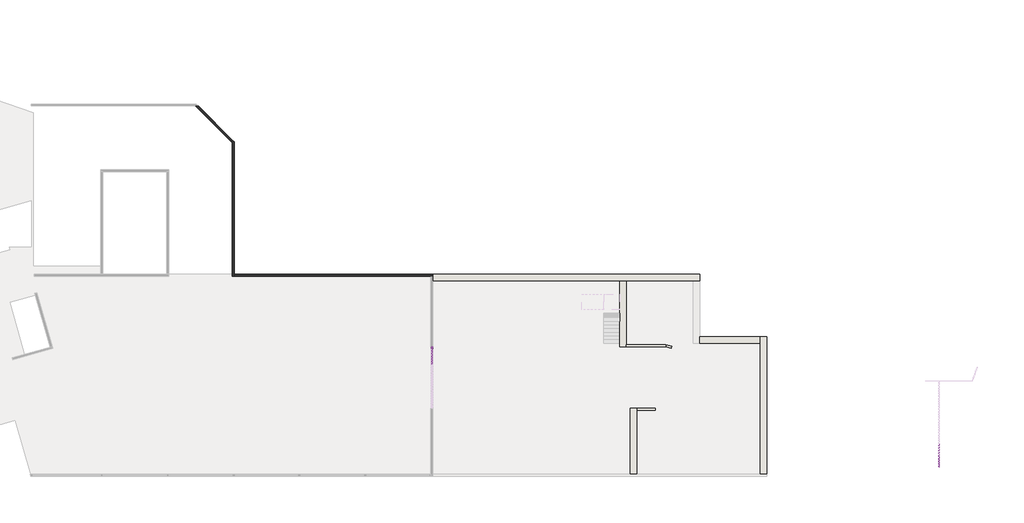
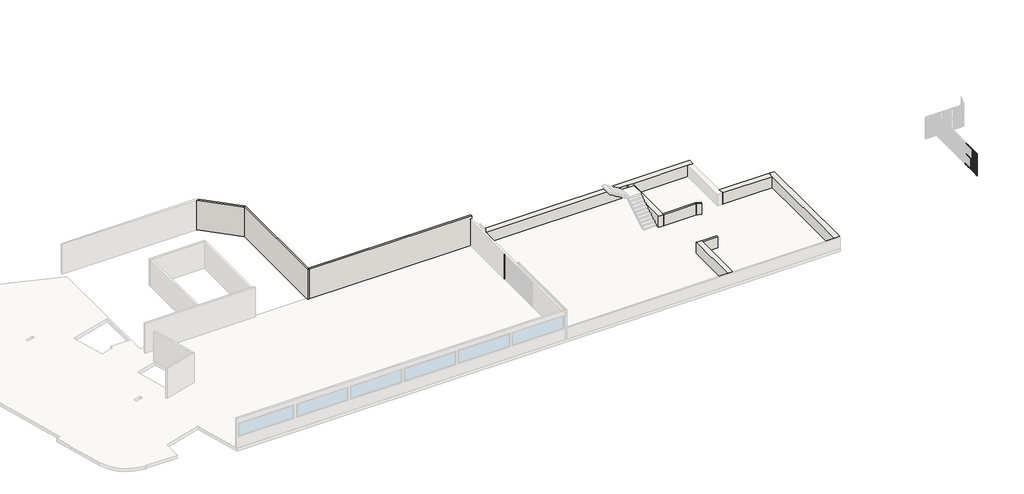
# One storey, part 6 of 9: 102 members, 11 walls, 5 plates.
"""IFC4 building model written with IfcOpenShell, lengths in millimetres."""

from ifc_helpers import new_model, si_unit, frame, origin, place, context, project, spatial, polyline, outline, extrude, faceted_brep, transform, mapped, element, save
from components import montante_retangular_30mm_quadrado_b6c22345, montante_retangular_30mm_quadrado_d4df406a, montante_retangular_30mm_quadrado_2d3e9df2, montante_retangular_30mm_quadrado_921f6540, montante_retangular_30mm_quadrado_d9064eb3, montante_retangular_30mm_quadrado_c456a22c, montante_retangular_30mm_quadrado_54fe6a28, montante_retangular_30mm_quadrado_d90e5050, montante_retangular_30mm_quadrado_529ace61, montante_retangular_30mm_quadrado_48edb5a7, montante_retangular_30mm_quadrado_ebddef8f, montante_retangular_30mm_quadrado_018b02ca, painel_do_sistema_vazio_vazio_88ac28ff, painel_do_sistema_vazio_vazio_800e51c1

model = new_model("IFC4")

# Units and contexts
model_context = context("Model", 3, world=origin())
ifc_project = project(units=[si_unit("LENGTHUNIT", "METRE", prefix="MILLI")], contexts=[model_context])

# Site, building, storey
site = spatial("IfcSite", under=ifc_project)
building = spatial("IfcBuilding", under=site)
storey = spatial("IfcBuildingStorey", under=building, Name="Garagem 1", Elevation=47850.0)

# Members
placement = place(None, origin())
montante_retangular_30mm_quadrado_shape = montante_retangular_30mm_quadrado_b6c22345(model_context)
element("IfcMember", 1, ObjectType="Montante retangular : 30mm Quadrado", at=placement, inside=storey, context=model_context, shape_type="MappedRepresentation", body=[
    mapped(montante_retangular_30mm_quadrado_shape, transform((-44730.8696428, 13222.5140353, 50350.0), x_axis=(0.0, 0.0, 1.0), y_axis=(1.0, 0.0, 0.0), z_axis=(0.0, 1.0, 0.0))),
])
montante_retangular_30mm_quadrado_2_shape = montante_retangular_30mm_quadrado_d4df406a(model_context)
element("IfcMember", 2, ObjectType="Montante retangular : 30mm Quadrado", at=placement, inside=storey, context=model_context, shape_type="MappedRepresentation", body=[
    mapped(montante_retangular_30mm_quadrado_2_shape, transform((-44730.8696428, 13042.0363492, 50350.0), x_axis=(0.0, 0.0, 1.0), y_axis=(1.0, 0.0, 0.0), z_axis=(0.0, 1.0, 0.0))),
])
element("IfcMember", 3, ObjectType="Montante retangular : 30mm Quadrado", at=placement, inside=storey, context=model_context, shape_type="MappedRepresentation", body=[
    mapped(montante_retangular_30mm_quadrado_shape, transform((-44730.8696428, 13072.0363492, 47850.0), x_axis=(0.0, 0.0, -1.0), y_axis=(1.0, 0.0, 0.0), z_axis=(0.0, -1.0, 0.0))),
])
montante_retangular_30mm_quadrado_3_shape = montante_retangular_30mm_quadrado_2d3e9df2(model_context)
element("IfcMember", 4, ObjectType="Montante retangular : 30mm Quadrado", at=placement, inside=storey, context=model_context, shape_type="MappedRepresentation", body=[
    mapped(montante_retangular_30mm_quadrado_3_shape, transform((-44730.8696428, 13222.5140353, 48350.0), x_axis=(0.0, 0.0, 1.0), y_axis=(1.0, 0.0, 0.0), z_axis=(0.0, 1.0, 0.0))),
])
element("IfcMember", 5, ObjectType="Montante retangular : 30mm Quadrado", at=placement, inside=storey, context=model_context, shape_type="MappedRepresentation", body=[
    mapped(montante_retangular_30mm_quadrado_3_shape, transform((-44730.8696428, 13222.5140353, 48850.0), x_axis=(0.0, 0.0, 1.0), y_axis=(1.0, 0.0, 0.0), z_axis=(0.0, 1.0, 0.0))),
])
element("IfcMember", 6, ObjectType="Montante retangular : 30mm Quadrado", at=placement, inside=storey, context=model_context, shape_type="MappedRepresentation", body=[
    mapped(montante_retangular_30mm_quadrado_3_shape, transform((-44730.8696428, 13222.5140353, 49350.0), x_axis=(0.0, 0.0, 1.0), y_axis=(1.0, 0.0, 0.0), z_axis=(0.0, 1.0, 0.0))),
])
element("IfcMember", 7, ObjectType="Montante retangular : 30mm Quadrado", at=placement, inside=storey, context=model_context, shape_type="MappedRepresentation", body=[
    mapped(montante_retangular_30mm_quadrado_3_shape, transform((-44730.8696428, 13222.5140353, 49850.0), x_axis=(0.0, 0.0, 1.0), y_axis=(1.0, 0.0, 0.0), z_axis=(0.0, 1.0, 0.0))),
])
montante_retangular_30mm_quadrado_4_shape = montante_retangular_30mm_quadrado_921f6540(model_context)
element("IfcMember", 8, ObjectType="Montante retangular : 30mm Quadrado", at=placement, inside=storey, context=model_context, shape_type="MappedRepresentation", body=[
    mapped(montante_retangular_30mm_quadrado_4_shape, transform((-44730.8696428, 12651.0809776, 48350.0), x_axis=(0.0, 0.0, 1.0), y_axis=(1.0, 0.0, 0.0), z_axis=(0.0, 1.0, 0.0))),
])
element("IfcMember", 9, ObjectType="Montante retangular : 30mm Quadrado", at=placement, inside=storey, context=model_context, shape_type="MappedRepresentation", body=[
    mapped(montante_retangular_30mm_quadrado_4_shape, transform((-44730.8696428, 12846.5586634, 48350.0), x_axis=(0.0, 0.0, 1.0), y_axis=(1.0, 0.0, 0.0), z_axis=(0.0, 1.0, 0.0))),
])
element("IfcMember", 10, ObjectType="Montante retangular : 30mm Quadrado", at=placement, inside=storey, context=model_context, shape_type="MappedRepresentation", body=[
    mapped(montante_retangular_30mm_quadrado_4_shape, transform((-44730.8696428, 13042.0363492, 48350.0), x_axis=(0.0, 0.0, 1.0), y_axis=(1.0, 0.0, 0.0), z_axis=(0.0, 1.0, 0.0))),
])
element("IfcMember", 11, ObjectType="Montante retangular : 30mm Quadrado", at=placement, inside=storey, context=model_context, shape_type="MappedRepresentation", body=[
    mapped(montante_retangular_30mm_quadrado_4_shape, transform((-44730.8696428, 12064.6479201, 48850.0), x_axis=(0.0, 0.0, 1.0), y_axis=(1.0, 0.0, 0.0), z_axis=(0.0, 1.0, 0.0))),
])
element("IfcMember", 12, ObjectType="Montante retangular : 30mm Quadrado", at=placement, inside=storey, context=model_context, shape_type="MappedRepresentation", body=[
    mapped(montante_retangular_30mm_quadrado_4_shape, transform((-44730.8696428, 12260.1256059, 48850.0), x_axis=(0.0, 0.0, 1.0), y_axis=(1.0, 0.0, 0.0), z_axis=(0.0, 1.0, 0.0))),
])
element("IfcMember", 13, ObjectType="Montante retangular : 30mm Quadrado", at=placement, inside=storey, context=model_context, shape_type="MappedRepresentation", body=[
    mapped(montante_retangular_30mm_quadrado_4_shape, transform((-44730.8696428, 12455.6032917, 48850.0), x_axis=(0.0, 0.0, 1.0), y_axis=(1.0, 0.0, 0.0), z_axis=(0.0, 1.0, 0.0))),
])
element("IfcMember", 14, ObjectType="Montante retangular : 30mm Quadrado", at=placement, inside=storey, context=model_context, shape_type="MappedRepresentation", body=[
    mapped(montante_retangular_30mm_quadrado_4_shape, transform((-44730.8696428, 12651.0809776, 48850.0), x_axis=(0.0, 0.0, 1.0), y_axis=(1.0, 0.0, 0.0), z_axis=(0.0, 1.0, 0.0))),
])
element("IfcMember", 15, ObjectType="Montante retangular : 30mm Quadrado", at=placement, inside=storey, context=model_context, shape_type="MappedRepresentation", body=[
    mapped(montante_retangular_30mm_quadrado_4_shape, transform((-44730.8696428, 12846.5586634, 48850.0), x_axis=(0.0, 0.0, 1.0), y_axis=(1.0, 0.0, 0.0), z_axis=(0.0, 1.0, 0.0))),
])
element("IfcMember", 16, ObjectType="Montante retangular : 30mm Quadrado", at=placement, inside=storey, context=model_context, shape_type="MappedRepresentation", body=[
    mapped(montante_retangular_30mm_quadrado_4_shape, transform((-44730.8696428, 13042.0363492, 48850.0), x_axis=(0.0, 0.0, 1.0), y_axis=(1.0, 0.0, 0.0), z_axis=(0.0, 1.0, 0.0))),
])
element("IfcMember", 17, ObjectType="Montante retangular : 30mm Quadrado", at=placement, inside=storey, context=model_context, shape_type="MappedRepresentation", body=[
    mapped(montante_retangular_30mm_quadrado_4_shape, transform((-44730.8696428, 12064.6479201, 49350.0), x_axis=(0.0, 0.0, 1.0), y_axis=(1.0, 0.0, 0.0), z_axis=(0.0, 1.0, 0.0))),
])
element("IfcMember", 18, ObjectType="Montante retangular : 30mm Quadrado", at=placement, inside=storey, context=model_context, shape_type="MappedRepresentation", body=[
    mapped(montante_retangular_30mm_quadrado_4_shape, transform((-44730.8696428, 12260.1256059, 49350.0), x_axis=(0.0, 0.0, 1.0), y_axis=(1.0, 0.0, 0.0), z_axis=(0.0, 1.0, 0.0))),
])
element("IfcMember", 19, ObjectType="Montante retangular : 30mm Quadrado", at=placement, inside=storey, context=model_context, shape_type="MappedRepresentation", body=[
    mapped(montante_retangular_30mm_quadrado_4_shape, transform((-44730.8696428, 12455.6032917, 49350.0), x_axis=(0.0, 0.0, 1.0), y_axis=(1.0, 0.0, 0.0), z_axis=(0.0, 1.0, 0.0))),
])
element("IfcMember", 20, ObjectType="Montante retangular : 30mm Quadrado", at=placement, inside=storey, context=model_context, shape_type="MappedRepresentation", body=[
    mapped(montante_retangular_30mm_quadrado_4_shape, transform((-44730.8696428, 12651.0809776, 49350.0), x_axis=(0.0, 0.0, 1.0), y_axis=(1.0, 0.0, 0.0), z_axis=(0.0, 1.0, 0.0))),
])
element("IfcMember", 21, ObjectType="Montante retangular : 30mm Quadrado", at=placement, inside=storey, context=model_context, shape_type="MappedRepresentation", body=[
    mapped(montante_retangular_30mm_quadrado_4_shape, transform((-44730.8696428, 12846.5586634, 49350.0), x_axis=(0.0, 0.0, 1.0), y_axis=(1.0, 0.0, 0.0), z_axis=(0.0, 1.0, 0.0))),
])
element("IfcMember", 22, ObjectType="Montante retangular : 30mm Quadrado", at=placement, inside=storey, context=model_context, shape_type="MappedRepresentation", body=[
    mapped(montante_retangular_30mm_quadrado_4_shape, transform((-44730.8696428, 13042.0363492, 49350.0), x_axis=(0.0, 0.0, 1.0), y_axis=(1.0, 0.0, 0.0), z_axis=(0.0, 1.0, 0.0))),
])
element("IfcMember", 23, ObjectType="Montante retangular : 30mm Quadrado", at=placement, inside=storey, context=model_context, shape_type="MappedRepresentation", body=[
    mapped(montante_retangular_30mm_quadrado_4_shape, transform((-44730.8696428, 12064.6479201, 49850.0), x_axis=(0.0, 0.0, 1.0), y_axis=(1.0, 0.0, 0.0), z_axis=(0.0, 1.0, 0.0))),
])
element("IfcMember", 24, ObjectType="Montante retangular : 30mm Quadrado", at=placement, inside=storey, context=model_context, shape_type="MappedRepresentation", body=[
    mapped(montante_retangular_30mm_quadrado_4_shape, transform((-44730.8696428, 12260.1256059, 49850.0), x_axis=(0.0, 0.0, 1.0), y_axis=(1.0, 0.0, 0.0), z_axis=(0.0, 1.0, 0.0))),
])
element("IfcMember", 25, ObjectType="Montante retangular : 30mm Quadrado", at=placement, inside=storey, context=model_context, shape_type="MappedRepresentation", body=[
    mapped(montante_retangular_30mm_quadrado_4_shape, transform((-44730.8696428, 12455.6032917, 49850.0), x_axis=(0.0, 0.0, 1.0), y_axis=(1.0, 0.0, 0.0), z_axis=(0.0, 1.0, 0.0))),
])
element("IfcMember", 26, ObjectType="Montante retangular : 30mm Quadrado", at=placement, inside=storey, context=model_context, shape_type="MappedRepresentation", body=[
    mapped(montante_retangular_30mm_quadrado_4_shape, transform((-44730.8696428, 12651.0809776, 49850.0), x_axis=(0.0, 0.0, 1.0), y_axis=(1.0, 0.0, 0.0), z_axis=(0.0, 1.0, 0.0))),
])
element("IfcMember", 27, ObjectType="Montante retangular : 30mm Quadrado", at=placement, inside=storey, context=model_context, shape_type="MappedRepresentation", body=[
    mapped(montante_retangular_30mm_quadrado_4_shape, transform((-44730.8696428, 12846.5586634, 49850.0), x_axis=(0.0, 0.0, 1.0), y_axis=(1.0, 0.0, 0.0), z_axis=(0.0, 1.0, 0.0))),
])
element("IfcMember", 28, ObjectType="Montante retangular : 30mm Quadrado", at=placement, inside=storey, context=model_context, shape_type="MappedRepresentation", body=[
    mapped(montante_retangular_30mm_quadrado_4_shape, transform((-44730.8696428, 13042.0363492, 49850.0), x_axis=(0.0, 0.0, 1.0), y_axis=(1.0, 0.0, 0.0), z_axis=(0.0, 1.0, 0.0))),
])
montante_retangular_30mm_quadrado_5_shape = montante_retangular_30mm_quadrado_d9064eb3(model_context)
element("IfcMember", 29, ObjectType="Montante retangular : 30mm Quadrado", at=placement, inside=storey, context=model_context, shape_type="MappedRepresentation", body=[
    mapped(montante_retangular_30mm_quadrado_5_shape, transform((-44730.8696428, 12079.6479201, 47850.0), x_axis=(0.0, 1.0, 0.0), y_axis=(1.0, 0.0, 0.0), z_axis=(0.0, 0.0, -1.0))),
])
element("IfcMember", 30, ObjectType="Montante retangular : 30mm Quadrado", at=placement, inside=storey, context=model_context, shape_type="MappedRepresentation", body=[
    mapped(montante_retangular_30mm_quadrado_5_shape, transform((-44730.8696428, 12275.1256059, 47850.0), x_axis=(0.0, 1.0, 0.0), y_axis=(1.0, 0.0, 0.0), z_axis=(0.0, 0.0, -1.0))),
])
element("IfcMember", 31, ObjectType="Montante retangular : 30mm Quadrado", at=placement, inside=storey, context=model_context, shape_type="MappedRepresentation", body=[
    mapped(montante_retangular_30mm_quadrado_5_shape, transform((-44730.8696428, 12470.6032917, 47850.0), x_axis=(0.0, 1.0, 0.0), y_axis=(1.0, 0.0, 0.0), z_axis=(0.0, 0.0, -1.0))),
])
element("IfcMember", 32, ObjectType="Montante retangular : 30mm Quadrado", at=placement, inside=storey, context=model_context, shape_type="MappedRepresentation", body=[
    mapped(montante_retangular_30mm_quadrado_5_shape, transform((-44730.8696428, 12666.0809776, 47850.0), x_axis=(0.0, 1.0, 0.0), y_axis=(1.0, 0.0, 0.0), z_axis=(0.0, 0.0, -1.0))),
])
element("IfcMember", 33, ObjectType="Montante retangular : 30mm Quadrado", at=placement, inside=storey, context=model_context, shape_type="MappedRepresentation", body=[
    mapped(montante_retangular_30mm_quadrado_5_shape, transform((-44730.8696428, 12861.5586634, 47850.0), x_axis=(0.0, 1.0, 0.0), y_axis=(1.0, 0.0, 0.0), z_axis=(0.0, 0.0, -1.0))),
])
element("IfcMember", 34, ObjectType="Montante retangular : 30mm Quadrado", at=placement, inside=storey, context=model_context, shape_type="MappedRepresentation", body=[
    mapped(montante_retangular_30mm_quadrado_5_shape, transform((-44730.8696428, 13057.0363492, 47850.0), x_axis=(0.0, 1.0, 0.0), y_axis=(1.0, 0.0, 0.0), z_axis=(0.0, 0.0, -1.0))),
])
element("IfcMember", 35, ObjectType="Montante retangular : 30mm Quadrado", at=placement, inside=storey, context=model_context, shape_type="MappedRepresentation", body=[
    mapped(montante_retangular_30mm_quadrado_5_shape, transform((-44730.8696428, 12079.6479201, 48350.0), x_axis=(0.0, 1.0, 0.0), y_axis=(1.0, 0.0, 0.0), z_axis=(0.0, 0.0, -1.0))),
])
element("IfcMember", 36, ObjectType="Montante retangular : 30mm Quadrado", at=placement, inside=storey, context=model_context, shape_type="MappedRepresentation", body=[
    mapped(montante_retangular_30mm_quadrado_5_shape, transform((-44730.8696428, 12275.1256059, 48350.0), x_axis=(0.0, 1.0, 0.0), y_axis=(1.0, 0.0, 0.0), z_axis=(0.0, 0.0, -1.0))),
])
element("IfcMember", 37, ObjectType="Montante retangular : 30mm Quadrado", at=placement, inside=storey, context=model_context, shape_type="MappedRepresentation", body=[
    mapped(montante_retangular_30mm_quadrado_5_shape, transform((-44730.8696428, 12470.6032917, 48350.0), x_axis=(0.0, 1.0, 0.0), y_axis=(1.0, 0.0, 0.0), z_axis=(0.0, 0.0, -1.0))),
])
element("IfcMember", 38, ObjectType="Montante retangular : 30mm Quadrado", at=placement, inside=storey, context=model_context, shape_type="MappedRepresentation", body=[
    mapped(montante_retangular_30mm_quadrado_5_shape, transform((-44730.8696428, 12666.0809776, 48350.0), x_axis=(0.0, 1.0, 0.0), y_axis=(1.0, 0.0, 0.0), z_axis=(0.0, 0.0, -1.0))),
])
element("IfcMember", 39, ObjectType="Montante retangular : 30mm Quadrado", at=placement, inside=storey, context=model_context, shape_type="MappedRepresentation", body=[
    mapped(montante_retangular_30mm_quadrado_5_shape, transform((-44730.8696428, 12861.5586634, 48350.0), x_axis=(0.0, 1.0, 0.0), y_axis=(1.0, 0.0, 0.0), z_axis=(0.0, 0.0, -1.0))),
])
element("IfcMember", 40, ObjectType="Montante retangular : 30mm Quadrado", at=placement, inside=storey, context=model_context, shape_type="MappedRepresentation", body=[
    mapped(montante_retangular_30mm_quadrado_5_shape, transform((-44730.8696428, 13057.0363492, 48350.0), x_axis=(0.0, 1.0, 0.0), y_axis=(1.0, 0.0, 0.0), z_axis=(0.0, 0.0, -1.0))),
])
element("IfcMember", 41, ObjectType="Montante retangular : 30mm Quadrado", at=placement, inside=storey, context=model_context, shape_type="MappedRepresentation", body=[
    mapped(montante_retangular_30mm_quadrado_5_shape, transform((-44730.8696428, 12079.6479201, 48850.0), x_axis=(0.0, 1.0, 0.0), y_axis=(1.0, 0.0, 0.0), z_axis=(0.0, 0.0, -1.0))),
])
element("IfcMember", 42, ObjectType="Montante retangular : 30mm Quadrado", at=placement, inside=storey, context=model_context, shape_type="MappedRepresentation", body=[
    mapped(montante_retangular_30mm_quadrado_5_shape, transform((-44730.8696428, 12275.1256059, 48850.0), x_axis=(0.0, 1.0, 0.0), y_axis=(1.0, 0.0, 0.0), z_axis=(0.0, 0.0, -1.0))),
])
element("IfcMember", 43, ObjectType="Montante retangular : 30mm Quadrado", at=placement, inside=storey, context=model_context, shape_type="MappedRepresentation", body=[
    mapped(montante_retangular_30mm_quadrado_5_shape, transform((-44730.8696428, 12470.6032917, 48850.0), x_axis=(0.0, 1.0, 0.0), y_axis=(1.0, 0.0, 0.0), z_axis=(0.0, 0.0, -1.0))),
])
element("IfcMember", 44, ObjectType="Montante retangular : 30mm Quadrado", at=placement, inside=storey, context=model_context, shape_type="MappedRepresentation", body=[
    mapped(montante_retangular_30mm_quadrado_5_shape, transform((-44730.8696428, 12666.0809776, 48850.0), x_axis=(0.0, 1.0, 0.0), y_axis=(1.0, 0.0, 0.0), z_axis=(0.0, 0.0, -1.0))),
])
element("IfcMember", 45, ObjectType="Montante retangular : 30mm Quadrado", at=placement, inside=storey, context=model_context, shape_type="MappedRepresentation", body=[
    mapped(montante_retangular_30mm_quadrado_5_shape, transform((-44730.8696428, 12861.5586634, 48850.0), x_axis=(0.0, 1.0, 0.0), y_axis=(1.0, 0.0, 0.0), z_axis=(0.0, 0.0, -1.0))),
])
element("IfcMember", 46, ObjectType="Montante retangular : 30mm Quadrado", at=placement, inside=storey, context=model_context, shape_type="MappedRepresentation", body=[
    mapped(montante_retangular_30mm_quadrado_5_shape, transform((-44730.8696428, 13057.0363492, 48850.0), x_axis=(0.0, 1.0, 0.0), y_axis=(1.0, 0.0, 0.0), z_axis=(0.0, 0.0, -1.0))),
])
element("IfcMember", 47, ObjectType="Montante retangular : 30mm Quadrado", at=placement, inside=storey, context=model_context, shape_type="MappedRepresentation", body=[
    mapped(montante_retangular_30mm_quadrado_5_shape, transform((-44730.8696428, 12079.6479201, 49350.0), x_axis=(0.0, 1.0, 0.0), y_axis=(1.0, 0.0, 0.0), z_axis=(0.0, 0.0, -1.0))),
])
element("IfcMember", 48, ObjectType="Montante retangular : 30mm Quadrado", at=placement, inside=storey, context=model_context, shape_type="MappedRepresentation", body=[
    mapped(montante_retangular_30mm_quadrado_5_shape, transform((-44730.8696428, 12275.1256059, 49350.0), x_axis=(0.0, 1.0, 0.0), y_axis=(1.0, 0.0, 0.0), z_axis=(0.0, 0.0, -1.0))),
])
element("IfcMember", 49, ObjectType="Montante retangular : 30mm Quadrado", at=placement, inside=storey, context=model_context, shape_type="MappedRepresentation", body=[
    mapped(montante_retangular_30mm_quadrado_5_shape, transform((-44730.8696428, 12470.6032917, 49350.0), x_axis=(0.0, 1.0, 0.0), y_axis=(1.0, 0.0, 0.0), z_axis=(0.0, 0.0, -1.0))),
])
element("IfcMember", 50, ObjectType="Montante retangular : 30mm Quadrado", at=placement, inside=storey, context=model_context, shape_type="MappedRepresentation", body=[
    mapped(montante_retangular_30mm_quadrado_5_shape, transform((-44730.8696428, 12666.0809776, 49350.0), x_axis=(0.0, 1.0, 0.0), y_axis=(1.0, 0.0, 0.0), z_axis=(0.0, 0.0, -1.0))),
])
element("IfcMember", 51, ObjectType="Montante retangular : 30mm Quadrado", at=placement, inside=storey, context=model_context, shape_type="MappedRepresentation", body=[
    mapped(montante_retangular_30mm_quadrado_5_shape, transform((-44730.8696428, 12861.5586634, 49350.0), x_axis=(0.0, 1.0, 0.0), y_axis=(1.0, 0.0, 0.0), z_axis=(0.0, 0.0, -1.0))),
])
element("IfcMember", 52, ObjectType="Montante retangular : 30mm Quadrado", at=placement, inside=storey, context=model_context, shape_type="MappedRepresentation", body=[
    mapped(montante_retangular_30mm_quadrado_5_shape, transform((-44730.8696428, 13057.0363492, 49350.0), x_axis=(0.0, 1.0, 0.0), y_axis=(1.0, 0.0, 0.0), z_axis=(0.0, 0.0, -1.0))),
])
element("IfcMember", 53, ObjectType="Montante retangular : 30mm Quadrado", at=placement, inside=storey, context=model_context, shape_type="MappedRepresentation", body=[
    mapped(montante_retangular_30mm_quadrado_5_shape, transform((-44730.8696428, 12079.6479201, 49850.0), x_axis=(0.0, 1.0, 0.0), y_axis=(1.0, 0.0, 0.0), z_axis=(0.0, 0.0, -1.0))),
])
element("IfcMember", 54, ObjectType="Montante retangular : 30mm Quadrado", at=placement, inside=storey, context=model_context, shape_type="MappedRepresentation", body=[
    mapped(montante_retangular_30mm_quadrado_5_shape, transform((-44730.8696428, 12275.1256059, 49850.0), x_axis=(0.0, 1.0, 0.0), y_axis=(1.0, 0.0, 0.0), z_axis=(0.0, 0.0, -1.0))),
])
element("IfcMember", 55, ObjectType="Montante retangular : 30mm Quadrado", at=placement, inside=storey, context=model_context, shape_type="MappedRepresentation", body=[
    mapped(montante_retangular_30mm_quadrado_5_shape, transform((-44730.8696428, 12470.6032917, 49850.0), x_axis=(0.0, 1.0, 0.0), y_axis=(1.0, 0.0, 0.0), z_axis=(0.0, 0.0, -1.0))),
])
element("IfcMember", 56, ObjectType="Montante retangular : 30mm Quadrado", at=placement, inside=storey, context=model_context, shape_type="MappedRepresentation", body=[
    mapped(montante_retangular_30mm_quadrado_5_shape, transform((-44730.8696428, 12666.0809776, 49850.0), x_axis=(0.0, 1.0, 0.0), y_axis=(1.0, 0.0, 0.0), z_axis=(0.0, 0.0, -1.0))),
])
element("IfcMember", 57, ObjectType="Montante retangular : 30mm Quadrado", at=placement, inside=storey, context=model_context, shape_type="MappedRepresentation", body=[
    mapped(montante_retangular_30mm_quadrado_5_shape, transform((-44730.8696428, 12861.5586634, 49850.0), x_axis=(0.0, 1.0, 0.0), y_axis=(1.0, 0.0, 0.0), z_axis=(0.0, 0.0, -1.0))),
])
element("IfcMember", 58, ObjectType="Montante retangular : 30mm Quadrado", at=placement, inside=storey, context=model_context, shape_type="MappedRepresentation", body=[
    mapped(montante_retangular_30mm_quadrado_5_shape, transform((-44730.8696428, 13057.0363492, 49850.0), x_axis=(0.0, 1.0, 0.0), y_axis=(1.0, 0.0, 0.0), z_axis=(0.0, 0.0, -1.0))),
])
montante_retangular_30mm_quadrado_6_shape = montante_retangular_30mm_quadrado_c456a22c(model_context)
element("IfcMember", 59, ObjectType="Montante retangular : 30mm Quadrado", at=placement, inside=storey, context=model_context, shape_type="MappedRepresentation", body=[
    mapped(montante_retangular_30mm_quadrado_6_shape, transform((-44730.8696428, 13252.5140353, 47850.0), x_axis=(0.0, 1.0, 0.0), y_axis=(1.0, 0.0, 0.0), z_axis=(0.0, 0.0, -1.0))),
])
element("IfcMember", 60, ObjectType="Montante retangular : 30mm Quadrado", at=placement, inside=storey, context=model_context, shape_type="MappedRepresentation", body=[
    mapped(montante_retangular_30mm_quadrado_6_shape, transform((-44730.8696428, 13252.5140353, 48350.0), x_axis=(0.0, 1.0, 0.0), y_axis=(1.0, 0.0, 0.0), z_axis=(0.0, 0.0, -1.0))),
])
element("IfcMember", 61, ObjectType="Montante retangular : 30mm Quadrado", at=placement, inside=storey, context=model_context, shape_type="MappedRepresentation", body=[
    mapped(montante_retangular_30mm_quadrado_6_shape, transform((-44730.8696428, 13252.5140353, 48850.0), x_axis=(0.0, 1.0, 0.0), y_axis=(1.0, 0.0, 0.0), z_axis=(0.0, 0.0, -1.0))),
])
element("IfcMember", 62, ObjectType="Montante retangular : 30mm Quadrado", at=placement, inside=storey, context=model_context, shape_type="MappedRepresentation", body=[
    mapped(montante_retangular_30mm_quadrado_6_shape, transform((-44730.8696428, 13252.5140353, 49350.0), x_axis=(0.0, 1.0, 0.0), y_axis=(1.0, 0.0, 0.0), z_axis=(0.0, 0.0, -1.0))),
])
element("IfcMember", 63, ObjectType="Montante retangular : 30mm Quadrado", at=placement, inside=storey, context=model_context, shape_type="MappedRepresentation", body=[
    mapped(montante_retangular_30mm_quadrado_6_shape, transform((-44730.8696428, 13252.5140353, 49850.0), x_axis=(0.0, 1.0, 0.0), y_axis=(1.0, 0.0, 0.0), z_axis=(0.0, 0.0, -1.0))),
])
montante_retangular_30mm_quadrado_7_shape = montante_retangular_30mm_quadrado_54fe6a28(model_context)
element("IfcMember", 64, ObjectType="Montante retangular : 30mm Quadrado", at=placement, inside=storey, context=model_context, shape_type="MappedRepresentation", body=[
    mapped(montante_retangular_30mm_quadrado_7_shape, transform((-6213.4895645, 4283.8626614, 50000.0), x_axis=(0.0, 1.0, 0.0), y_axis=(1.0, 0.0, 0.0), z_axis=(0.0, 0.0, -1.0))),
])
element("IfcMember", 65, ObjectType="Montante retangular : 30mm Quadrado", at=placement, inside=storey, context=model_context, shape_type="MappedRepresentation", body=[
    mapped(montante_retangular_30mm_quadrado_7_shape, transform((-6213.4895645, 4482.2532362, 50000.0), x_axis=(0.0, 1.0, 0.0), y_axis=(1.0, 0.0, 0.0), z_axis=(0.0, 0.0, -1.0))),
])
element("IfcMember", 66, ObjectType="Montante retangular : 30mm Quadrado", at=placement, inside=storey, context=model_context, shape_type="MappedRepresentation", body=[
    mapped(montante_retangular_30mm_quadrado_7_shape, transform((-6213.4895645, 4680.643811, 50000.0), x_axis=(0.0, 1.0, 0.0), y_axis=(1.0, 0.0, 0.0), z_axis=(0.0, 0.0, -1.0))),
])
element("IfcMember", 67, ObjectType="Montante retangular : 30mm Quadrado", at=placement, inside=storey, context=model_context, shape_type="MappedRepresentation", body=[
    mapped(montante_retangular_30mm_quadrado_7_shape, transform((-6213.4895645, 4879.0343858, 50000.0), x_axis=(0.0, 1.0, 0.0), y_axis=(1.0, 0.0, 0.0), z_axis=(0.0, 0.0, -1.0))),
])
element("IfcMember", 68, ObjectType="Montante retangular : 30mm Quadrado", at=placement, inside=storey, context=model_context, shape_type="MappedRepresentation", body=[
    mapped(montante_retangular_30mm_quadrado_7_shape, transform((-6213.4895645, 5077.4249606, 50000.0), x_axis=(0.0, 1.0, 0.0), y_axis=(1.0, 0.0, 0.0), z_axis=(0.0, 0.0, -1.0))),
])
element("IfcMember", 69, ObjectType="Montante retangular : 30mm Quadrado", at=placement, inside=storey, context=model_context, shape_type="MappedRepresentation", body=[
    mapped(montante_retangular_30mm_quadrado_7_shape, transform((-6213.4895645, 4283.8626614, 51050.0), x_axis=(0.0, 1.0, 0.0), y_axis=(1.0, 0.0, 0.0), z_axis=(0.0, 0.0, -1.0))),
])
element("IfcMember", 70, ObjectType="Montante retangular : 30mm Quadrado", at=placement, inside=storey, context=model_context, shape_type="MappedRepresentation", body=[
    mapped(montante_retangular_30mm_quadrado_7_shape, transform((-6213.4895645, 4482.2532362, 51050.0), x_axis=(0.0, 1.0, 0.0), y_axis=(1.0, 0.0, 0.0), z_axis=(0.0, 0.0, -1.0))),
])
element("IfcMember", 71, ObjectType="Montante retangular : 30mm Quadrado", at=placement, inside=storey, context=model_context, shape_type="MappedRepresentation", body=[
    mapped(montante_retangular_30mm_quadrado_7_shape, transform((-6213.4895645, 4680.643811, 51050.0), x_axis=(0.0, 1.0, 0.0), y_axis=(1.0, 0.0, 0.0), z_axis=(0.0, 0.0, -1.0))),
])
element("IfcMember", 72, ObjectType="Montante retangular : 30mm Quadrado", at=placement, inside=storey, context=model_context, shape_type="MappedRepresentation", body=[
    mapped(montante_retangular_30mm_quadrado_7_shape, transform((-6213.4895645, 4879.0343858, 51050.0), x_axis=(0.0, 1.0, 0.0), y_axis=(1.0, 0.0, 0.0), z_axis=(0.0, 0.0, -1.0))),
])
montante_retangular_30mm_quadrado_8_shape = montante_retangular_30mm_quadrado_d90e5050(model_context)
element("IfcMember", 73, ObjectType="Montante retangular : 30mm Quadrado", at=placement, inside=storey, context=model_context, shape_type="MappedRepresentation", body=[
    mapped(montante_retangular_30mm_quadrado_8_shape, transform((-6213.4895645, 4268.8626614, 52100.0), x_axis=(0.0, 0.0, 1.0), y_axis=(1.0, 0.0, 0.0), z_axis=(0.0, 1.0, 0.0))),
])
montante_retangular_30mm_quadrado_9_shape = montante_retangular_30mm_quadrado_529ace61(model_context)
element("IfcMember", 74, ObjectType="Montante retangular : 30mm Quadrado", at=placement, inside=storey, context=model_context, shape_type="MappedRepresentation", body=[
    mapped(montante_retangular_30mm_quadrado_9_shape, transform((-6213.4895645, 4467.2532362, 52100.0), x_axis=(0.0, 0.0, 1.0), y_axis=(1.0, 0.0, 0.0), z_axis=(0.0, 1.0, 0.0))),
])
element("IfcMember", 75, ObjectType="Montante retangular : 30mm Quadrado", at=placement, inside=storey, context=model_context, shape_type="MappedRepresentation", body=[
    mapped(montante_retangular_30mm_quadrado_9_shape, transform((-6213.4895645, 4665.643811, 52100.0), x_axis=(0.0, 0.0, 1.0), y_axis=(1.0, 0.0, 0.0), z_axis=(0.0, 1.0, 0.0))),
])
element("IfcMember", 76, ObjectType="Montante retangular : 30mm Quadrado", at=placement, inside=storey, context=model_context, shape_type="MappedRepresentation", body=[
    mapped(montante_retangular_30mm_quadrado_9_shape, transform((-6213.4895645, 4864.0343858, 52100.0), x_axis=(0.0, 0.0, 1.0), y_axis=(1.0, 0.0, 0.0), z_axis=(0.0, 1.0, 0.0))),
])
element("IfcMember", 77, ObjectType="Montante retangular : 30mm Quadrado", at=placement, inside=storey, context=model_context, shape_type="MappedRepresentation", body=[
    mapped(montante_retangular_30mm_quadrado_9_shape, transform((-6213.4895645, 5062.4249606, 52100.0), x_axis=(0.0, 0.0, 1.0), y_axis=(1.0, 0.0, 0.0), z_axis=(0.0, 1.0, 0.0))),
])
element("IfcMember", 78, ObjectType="Montante retangular : 30mm Quadrado", at=placement, inside=storey, context=model_context, shape_type="MappedRepresentation", body=[
    mapped(montante_retangular_30mm_quadrado_9_shape, transform((-6213.4895645, 5260.8155354, 52100.0), x_axis=(0.0, 0.0, 1.0), y_axis=(1.0, 0.0, 0.0), z_axis=(0.0, 1.0, 0.0))),
])
element("IfcMember", 79, ObjectType="Montante retangular : 30mm Quadrado", at=placement, inside=storey, context=model_context, shape_type="MappedRepresentation", body=[
    mapped(montante_retangular_30mm_quadrado_9_shape, transform((-6213.4895645, 5459.2061102, 52100.0), x_axis=(0.0, 0.0, 1.0), y_axis=(1.0, 0.0, 0.0), z_axis=(0.0, 1.0, 0.0))),
])
element("IfcMember", 80, ObjectType="Montante retangular : 30mm Quadrado", at=placement, inside=storey, context=model_context, shape_type="MappedRepresentation", body=[
    mapped(montante_retangular_30mm_quadrado_9_shape, transform((-6213.4895645, 5657.596685, 52100.0), x_axis=(0.0, 0.0, 1.0), y_axis=(1.0, 0.0, 0.0), z_axis=(0.0, 1.0, 0.0))),
])
element("IfcMember", 81, ObjectType="Montante retangular : 30mm Quadrado", at=placement, inside=storey, context=model_context, shape_type="MappedRepresentation", body=[
    mapped(montante_retangular_30mm_quadrado_9_shape, transform((-6213.4895645, 5855.9872598, 52100.0), x_axis=(0.0, 0.0, 1.0), y_axis=(1.0, 0.0, 0.0), z_axis=(0.0, 1.0, 0.0))),
])
element("IfcMember", 82, ObjectType="Montante retangular : 30mm Quadrado", at=placement, inside=storey, context=model_context, shape_type="MappedRepresentation", body=[
    mapped(montante_retangular_30mm_quadrado_8_shape, transform((-6213.4895645, 4115.4720862, 50000.0), x_axis=(0.0, 0.0, -1.0), y_axis=(1.0, 0.0, 0.0), z_axis=(0.0, -1.0, 0.0))),
])
element("IfcMember", 83, ObjectType="Montante retangular : 30mm Quadrado", at=placement, inside=storey, context=model_context, shape_type="MappedRepresentation", body=[
    mapped(montante_retangular_30mm_quadrado_9_shape, transform((-6213.4895645, 4298.8626614, 50000.0), x_axis=(0.0, 0.0, -1.0), y_axis=(1.0, 0.0, 0.0), z_axis=(0.0, -1.0, 0.0))),
])
element("IfcMember", 84, ObjectType="Montante retangular : 30mm Quadrado", at=placement, inside=storey, context=model_context, shape_type="MappedRepresentation", body=[
    mapped(montante_retangular_30mm_quadrado_9_shape, transform((-6213.4895645, 4497.2532362, 50000.0), x_axis=(0.0, 0.0, -1.0), y_axis=(1.0, 0.0, 0.0), z_axis=(0.0, -1.0, 0.0))),
])
element("IfcMember", 85, ObjectType="Montante retangular : 30mm Quadrado", at=placement, inside=storey, context=model_context, shape_type="MappedRepresentation", body=[
    mapped(montante_retangular_30mm_quadrado_9_shape, transform((-6213.4895645, 4695.643811, 50000.0), x_axis=(0.0, 0.0, -1.0), y_axis=(1.0, 0.0, 0.0), z_axis=(0.0, -1.0, 0.0))),
])
element("IfcMember", 86, ObjectType="Montante retangular : 30mm Quadrado", at=placement, inside=storey, context=model_context, shape_type="MappedRepresentation", body=[
    mapped(montante_retangular_30mm_quadrado_9_shape, transform((-6213.4895645, 4894.0343858, 50000.0), x_axis=(0.0, 0.0, -1.0), y_axis=(1.0, 0.0, 0.0), z_axis=(0.0, -1.0, 0.0))),
])
element("IfcMember", 87, ObjectType="Montante retangular : 30mm Quadrado", at=placement, inside=storey, context=model_context, shape_type="MappedRepresentation", body=[
    mapped(montante_retangular_30mm_quadrado_9_shape, transform((-6213.4895645, 5092.4249606, 50000.0), x_axis=(0.0, 0.0, -1.0), y_axis=(1.0, 0.0, 0.0), z_axis=(0.0, -1.0, 0.0))),
])
element("IfcMember", 88, ObjectType="Montante retangular : 30mm Quadrado", at=placement, inside=storey, context=model_context, shape_type="MappedRepresentation", body=[
    mapped(montante_retangular_30mm_quadrado_9_shape, transform((-6213.4895645, 5290.8155354, 50000.0), x_axis=(0.0, 0.0, -1.0), y_axis=(1.0, 0.0, 0.0), z_axis=(0.0, -1.0, 0.0))),
])
element("IfcMember", 89, ObjectType="Montante retangular : 30mm Quadrado", at=placement, inside=storey, context=model_context, shape_type="MappedRepresentation", body=[
    mapped(montante_retangular_30mm_quadrado_9_shape, transform((-6213.4895645, 5489.2061102, 50000.0), x_axis=(0.0, 0.0, -1.0), y_axis=(1.0, 0.0, 0.0), z_axis=(0.0, -1.0, 0.0))),
])
element("IfcMember", 90, ObjectType="Montante retangular : 30mm Quadrado", at=placement, inside=storey, context=model_context, shape_type="MappedRepresentation", body=[
    mapped(montante_retangular_30mm_quadrado_9_shape, transform((-6213.4895645, 5687.596685, 50000.0), x_axis=(0.0, 0.0, -1.0), y_axis=(1.0, 0.0, 0.0), z_axis=(0.0, -1.0, 0.0))),
])
element("IfcMember", 91, ObjectType="Montante retangular : 30mm Quadrado", at=placement, inside=storey, context=model_context, shape_type="MappedRepresentation", body=[
    mapped(montante_retangular_30mm_quadrado_9_shape, transform((-6213.4895645, 5885.9872598, 50000.0), x_axis=(0.0, 0.0, -1.0), y_axis=(1.0, 0.0, 0.0), z_axis=(0.0, -1.0, 0.0))),
])
montante_retangular_30mm_quadrado_10_shape = montante_retangular_30mm_quadrado_48edb5a7(model_context)
element("IfcMember", 92, ObjectType="Montante retangular : 30mm Quadrado", at=placement, inside=storey, context=model_context, shape_type="MappedRepresentation", body=[
    mapped(montante_retangular_30mm_quadrado_10_shape, transform((-6213.4895645, 4268.8626614, 51050.0), x_axis=(0.0, 0.0, 1.0), y_axis=(1.0, 0.0, 0.0), z_axis=(0.0, 1.0, 0.0))),
])
montante_retangular_30mm_quadrado_11_shape = montante_retangular_30mm_quadrado_ebddef8f(model_context)
element("IfcMember", 93, ObjectType="Montante retangular : 30mm Quadrado", at=placement, inside=storey, context=model_context, shape_type="MappedRepresentation", body=[
    mapped(montante_retangular_30mm_quadrado_11_shape, transform((-6213.4895645, 4467.2532362, 51050.0), x_axis=(0.0, 0.0, 1.0), y_axis=(1.0, 0.0, 0.0), z_axis=(0.0, 1.0, 0.0))),
])
element("IfcMember", 94, ObjectType="Montante retangular : 30mm Quadrado", at=placement, inside=storey, context=model_context, shape_type="MappedRepresentation", body=[
    mapped(montante_retangular_30mm_quadrado_11_shape, transform((-6213.4895645, 4665.643811, 51050.0), x_axis=(0.0, 0.0, 1.0), y_axis=(1.0, 0.0, 0.0), z_axis=(0.0, 1.0, 0.0))),
])
element("IfcMember", 95, ObjectType="Montante retangular : 30mm Quadrado", at=placement, inside=storey, context=model_context, shape_type="MappedRepresentation", body=[
    mapped(montante_retangular_30mm_quadrado_11_shape, transform((-6213.4895645, 4864.0343858, 51050.0), x_axis=(0.0, 0.0, 1.0), y_axis=(1.0, 0.0, 0.0), z_axis=(0.0, 1.0, 0.0))),
])
element("IfcMember", 96, ObjectType="Montante retangular : 30mm Quadrado", at=placement, inside=storey, context=model_context, shape_type="MappedRepresentation", body=[
    mapped(montante_retangular_30mm_quadrado_11_shape, transform((-6213.4895645, 5062.4249606, 51050.0), x_axis=(0.0, 0.0, 1.0), y_axis=(1.0, 0.0, 0.0), z_axis=(0.0, 1.0, 0.0))),
])
element("IfcMember", 97, ObjectType="Montante retangular : 30mm Quadrado", at=placement, inside=storey, context=model_context, shape_type="MappedRepresentation", body=[
    mapped(montante_retangular_30mm_quadrado_11_shape, transform((-6213.4895645, 5260.8155354, 51050.0), x_axis=(0.0, 0.0, 1.0), y_axis=(1.0, 0.0, 0.0), z_axis=(0.0, 1.0, 0.0))),
])
element("IfcMember", 98, ObjectType="Montante retangular : 30mm Quadrado", at=placement, inside=storey, context=model_context, shape_type="MappedRepresentation", body=[
    mapped(montante_retangular_30mm_quadrado_11_shape, transform((-6213.4895645, 5459.2061102, 51050.0), x_axis=(0.0, 0.0, 1.0), y_axis=(1.0, 0.0, 0.0), z_axis=(0.0, 1.0, 0.0))),
])
element("IfcMember", 99, ObjectType="Montante retangular : 30mm Quadrado", at=placement, inside=storey, context=model_context, shape_type="MappedRepresentation", body=[
    mapped(montante_retangular_30mm_quadrado_11_shape, transform((-6213.4895645, 5657.596685, 51050.0), x_axis=(0.0, 0.0, 1.0), y_axis=(1.0, 0.0, 0.0), z_axis=(0.0, 1.0, 0.0))),
])
element("IfcMember", 100, ObjectType="Montante retangular : 30mm Quadrado", at=placement, inside=storey, context=model_context, shape_type="MappedRepresentation", body=[
    mapped(montante_retangular_30mm_quadrado_11_shape, transform((-6213.4895645, 5855.9872598, 51050.0), x_axis=(0.0, 0.0, 1.0), y_axis=(1.0, 0.0, 0.0), z_axis=(0.0, 1.0, 0.0))),
])
montante_retangular_30mm_quadrado_12_shape = montante_retangular_30mm_quadrado_018b02ca(model_context)
element("IfcMember", 101, ObjectType="Montante retangular : 30mm Quadrado", at=placement, inside=storey, context=model_context, shape_type="MappedRepresentation", body=[
    mapped(montante_retangular_30mm_quadrado_12_shape, transform((-6213.4895645, 4085.4720862, 52100.0), x_axis=(0.0, -1.0, 0.0), y_axis=(1.0, 0.0, 0.0), z_axis=(0.0, 0.0, 1.0))),
])
element("IfcMember", 102, ObjectType="Montante retangular : 30mm Quadrado", at=placement, inside=storey, context=model_context, shape_type="MappedRepresentation", body=[
    mapped(montante_retangular_30mm_quadrado_12_shape, transform((-6213.4895645, 4085.4720862, 51050.0), x_axis=(0.0, -1.0, 0.0), y_axis=(1.0, 0.0, 0.0), z_axis=(0.0, 0.0, 1.0))),
])

# Plates
painel_do_sistema_vazio_vazio_shape = painel_do_sistema_vazio_vazio_88ac28ff(model_context)
element("IfcPlate", 103, ObjectType="Painel do sistema vazio : Vazio", at=placement, inside=storey, context=model_context, shape_type="MappedRepresentation", body=[
    mapped(painel_do_sistema_vazio_vazio_shape, transform((-44730.8696428, 13147.2751923, 47880.0), x_axis=(0.0, 1.0, 0.0), y_axis=(-1.0, 0.0, 0.0), z_axis=(0.0, 0.0, 1.0))),
])
element("IfcPlate", 104, ObjectType="Painel do sistema vazio : Vazio", at=placement, inside=storey, context=model_context, shape_type="MappedRepresentation", body=[
    mapped(painel_do_sistema_vazio_vazio_shape, transform((-44730.8696428, 13147.2751923, 49865.0), x_axis=(0.0, 1.0, 0.0), y_axis=(-1.0, 0.0, 0.0), z_axis=(0.0, 0.0, 1.0))),
])
painel_do_sistema_vazio_vazio_2_shape = painel_do_sistema_vazio_vazio_800e51c1(model_context)
element("IfcPlate", 105, ObjectType="Painel do sistema vazio : Vazio", at=placement, inside=storey, context=model_context, shape_type="MappedRepresentation", body=[
    mapped(painel_do_sistema_vazio_vazio_2_shape, transform((-44730.8696428, 13147.2751923, 48365.0), x_axis=(0.0, 1.0, 0.0), y_axis=(-1.0, 0.0, 0.0), z_axis=(0.0, 0.0, 1.0))),
])
element("IfcPlate", 106, ObjectType="Painel do sistema vazio : Vazio", at=placement, inside=storey, context=model_context, shape_type="MappedRepresentation", body=[
    mapped(painel_do_sistema_vazio_vazio_2_shape, transform((-44730.8696428, 13147.2751923, 48865.0), x_axis=(0.0, 1.0, 0.0), y_axis=(-1.0, 0.0, 0.0), z_axis=(0.0, 0.0, 1.0))),
])
element("IfcPlate", 107, ObjectType="Painel do sistema vazio : Vazio", at=placement, inside=storey, context=model_context, shape_type="MappedRepresentation", body=[
    mapped(painel_do_sistema_vazio_vazio_2_shape, transform((-44730.8696428, 13147.2751923, 49365.0), x_axis=(0.0, 1.0, 0.0), y_axis=(-1.0, 0.0, 0.0), z_axis=(0.0, 0.0, 1.0))),
])

# Walls
element("IfcWall", 108, ObjectType="Básica .15 - Externa", at=placement, inside=storey, context=model_context, shape_type="Brep", body=[
    faceted_brep([(-59878.6137209, 28940.3430413, 47850.0), (-59878.6137209, 28729.2690021, 47850.0), (-59878.6137209, 18602.5140353, 47850.0), (-59878.6137209, 18602.5140353, 50750.0), (-59878.6137209, 28729.2690021, 50750.0), (-59878.6137209, 28940.3430413, 50750.0), (-59728.6137209, 28791.8430413, 47850.0), (-59728.6137209, 28791.8430413, 50750.0), (-59728.6137209, 28580.7690021, 50750.0), (-59728.6137209, 18752.5140353, 50750.0), (-59728.6137209, 18602.5140353, 50750.0), (-59728.6137209, 18602.5140353, 50450.0), (-59728.6137209, 18602.5140353, 47850.0), (-59728.6137209, 18752.5140353, 47850.0)], [[[0, 1, 2, 3, 4, 5]], [[6, 7, 8, 9, 10, 11, 12, 13]], [[2, 1, 0, 6, 13, 12]], [[5, 4, 3, 10, 9, 8, 7]], [[0, 5, 7, 6]], [[2, 12, 11, 10, 3]]]),
])
element("IfcWall", 109, ObjectType="Básica .15 - Externa", at=placement, inside=storey, context=model_context, shape_type="SweptSolid", body=[
    extrude(outline(polyline([(-59878.6137209, 28729.2690021), (-62701.4234226, 31523.8506069), (-62488.2173225, 31523.8506069), (-59878.6137209, 28940.3430413), (-59878.6137209, 28729.2690021)])), frame((0.0, 0.0, 47850.0), z_axis=(0.0, 0.0, 1.0), x_axis=(1.0, 0.0, 0.0)), (0.0, 0.0, 1.0), 2900.0),
])
element("IfcWall", 110, ObjectType="Básica .15 - Externa", at=placement, inside=storey, context=model_context, shape_type="Brep", body=[
    faceted_brep([(-44730.8696428, 18752.5140353, 47850.0), (-59728.6137209, 18752.5140353, 47850.0), (-59728.6137209, 18752.5140353, 50750.0), (-44655.8696428, 18752.5140353, 50750.0), (-44655.8696428, 18752.5140353, 48950.0), (-44730.8696428, 18752.5140353, 48950.0), (-44730.8696428, 18602.5140353, 47850.0), (-44730.8696428, 18602.5140353, 48950.0), (-44655.8696428, 18602.5140353, 48950.0), (-44655.8696428, 18602.5140353, 50750.0), (-44805.8696428, 18602.5140353, 50750.0), (-59728.6137209, 18602.5140353, 50750.0), (-59728.6137209, 18602.5140353, 47850.0), (-44805.8696428, 18602.5140353, 47850.0)], [[[0, 1, 2, 3, 4, 5]], [[6, 7, 8, 9, 10, 11, 12, 13]], [[1, 0, 6, 13, 12]], [[3, 2, 11, 10, 9]], [[0, 5, 7, 6]], [[4, 8, 7, 5]], [[4, 3, 9, 8]], [[1, 12, 11, 2]]]),
])
element("IfcWall", 111, ObjectType="Contenção 50cm - Externa", at=placement, inside=storey, context=model_context, shape_type="Brep", body=[
    faceted_brep([(-30475.8701557, 18252.5140353, 47850.0), (-30475.8701557, 13252.5140353, 47850.0), (-30475.8701557, 13252.5140353, 48950.0), (-30475.8701557, 18252.5140353, 48950.0), (-29975.8701557, 18252.5140353, 47850.0), (-29975.8701557, 18252.5140353, 48950.0), (-29975.8701557, 13402.5140353, 48950.0), (-29975.8701557, 13252.5140353, 48950.0), (-29975.8701557, 13252.5140353, 47850.0), (-29975.8701557, 13402.5140353, 47850.0)], [[[0, 1, 2, 3]], [[4, 5, 6, 7, 8, 9]], [[1, 0, 4, 9, 8]], [[3, 2, 7, 6, 5]], [[2, 1, 8, 7]], [[0, 3, 5, 4]]]),
])
element("IfcWall", 112, ObjectType="Contenção 50cm - Externa", at=placement, inside=storey, context=model_context, shape_type="Brep", body=[
    faceted_brep([(-44730.8696428, 18252.5140353, 47850.0), (-44655.8696428, 18252.5140353, 47850.0), (-30475.8701557, 18252.5140353, 47850.0), (-29975.8701557, 18252.5140353, 47850.0), (-24878.6137209, 18252.5140353, 47850.0), (-24378.6137209, 18252.5140353, 47850.0), (-24378.6137209, 18252.5140353, 48950.0), (-24878.6137209, 18252.5140353, 48950.0), (-29975.8701557, 18252.5140353, 48950.0), (-30475.8701557, 18252.5140353, 48950.0), (-44655.8696428, 18252.5140353, 48950.0), (-44730.8696428, 18252.5140353, 48950.0), (-44730.8696428, 18752.5140353, 47850.0), (-44730.8696428, 18752.5140353, 48950.0), (-24378.6137209, 18752.5140353, 48950.0), (-24378.6137209, 18752.5140353, 47850.0), (-44730.8696428, 18602.5140353, 47850.0), (-44730.8696428, 18602.5140353, 48950.0)], [[[0, 1, 2, 3, 4, 5, 6, 7, 8, 9, 10, 11]], [[12, 13, 14, 15]], [[5, 4, 3, 2, 1, 0, 16, 12, 15]], [[11, 10, 9, 8, 7, 6, 14, 13, 17]], [[0, 11, 17, 13, 12, 16]], [[6, 5, 15, 14]]]),
])
element("IfcWall", 113, ObjectType="Contenção 50cm - Externa", at=placement, inside=storey, context=model_context, shape_type="Brep", body=[
    faceted_brep([(-29655.8696428, 8561.0495751, 47850.0), (-29655.8696428, 3561.0495751, 47850.0), (-29655.8696428, 3561.0495751, 48950.0), (-29655.8696428, 8561.0495751, 48950.0), (-29155.8696428, 8561.0495751, 47850.0), (-29155.8696428, 8561.0495751, 48950.0), (-29155.8696428, 8411.0495751, 48950.0), (-29155.8696428, 3561.0495751, 48950.0), (-29155.8696428, 3561.0495751, 47850.0), (-29155.8696428, 8411.0495751, 47850.0)], [[[0, 1, 2, 3]], [[4, 5, 6, 7, 8, 9]], [[1, 0, 4, 9, 8]], [[3, 2, 7, 6, 5]], [[2, 1, 8, 7]], [[0, 3, 5, 4]]]),
])
element("IfcWall", 114, ObjectType="Contenção 50cm - Externa", at=placement, inside=storey, context=model_context, shape_type="Brep", body=[
    faceted_brep([(-19778.6137209, 14002.5140353, 47850.0), (-19778.6137209, 13502.5140353, 47850.0), (-19778.6137209, 3561.0495751, 47850.0), (-19778.6137209, 3561.0495751, 48950.0), (-19778.6137209, 13502.5140353, 48950.0), (-19778.6137209, 14002.5140353, 48950.0), (-19278.6137209, 14002.5140353, 47850.0), (-19278.6137209, 14002.5140353, 48950.0), (-19278.6137209, 3561.0495751, 48950.0), (-19278.6137209, 3561.0495751, 47850.0)], [[[0, 1, 2, 3, 4, 5]], [[6, 7, 8, 9]], [[2, 1, 0, 6, 9]], [[5, 4, 3, 8, 7]], [[3, 2, 9, 8]], [[0, 5, 7, 6]]]),
])
element("IfcWall", 115, ObjectType="Básica .15 - Externa", at=placement, inside=storey, context=model_context, shape_type="SweptSolid", body=[
    extrude(outline(polyline([(-29975.8701557, 13402.5140353), (-26950.3981968, 13402.5140353), (-26972.6090716, 13252.5140353), (-29975.8701557, 13252.5140353), (-29975.8701557, 13402.5140353)])), frame((0.0, 0.0, 47850.0), z_axis=(0.0, 0.0, 1.0), x_axis=(1.0, 0.0, 0.0)), (0.0, 0.0, 1.0), 1100.0),
])
element("IfcWall", 116, ObjectType="Básica .15 - Externa", at=placement, inside=storey, context=model_context, shape_type="SweptSolid", body=[
    extrude(outline(polyline([(-29155.8696428, 8561.0495751), (-27752.8372347, 8561.0495751), (-27775.5925358, 8411.0495751), (-29155.8696428, 8411.0495751), (-29155.8696428, 8561.0495751)])), frame((0.0, 0.0, 47850.0), z_axis=(0.0, 0.0, 1.0), x_axis=(1.0, 0.0, 0.0)), (0.0, 0.0, 1.0), 1100.0),
])
element("IfcWall", 117, ObjectType="Contenção 50cm - Externa", at=placement, inside=storey, context=model_context, shape_type="SweptSolid", body=[
    extrude(outline(polyline([(-19778.6137209, 13502.5140353), (-24378.6137209, 13502.5140353), (-24378.6137209, 14002.5140353), (-19778.6137209, 14002.5140353), (-19778.6137209, 13502.5140353)])), frame((0.0, 0.0, 47850.0), z_axis=(0.0, 0.0, 1.0), x_axis=(1.0, 0.0, 0.0)), (0.0, 0.0, 1.0), 1100.0),
])
element("IfcWall", 118, ObjectType="Básica .15 - Externa", at=placement, inside=storey, context=model_context, shape_type="SweptSolid", body=[
    extrude(outline(polyline([(-26539.4717266, 13121.3671201), (-26972.6090716, 13252.5140353), (-26950.3981968, 13402.5140353), (-26495.4934305, 13264.7763004), (-26539.4717266, 13121.3671201)])), frame((0.0, 0.0, 47850.0), z_axis=(0.0, 0.0, 1.0), x_axis=(1.0, 0.0, 0.0)), (0.0, 0.0, 1.0), 1100.0),
])

save(model, "model.ifc")
